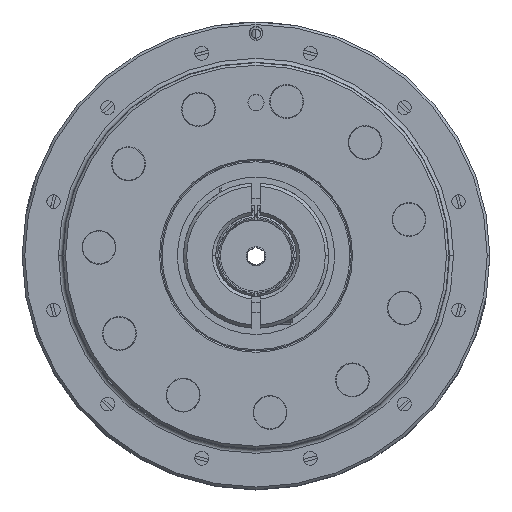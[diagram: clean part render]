
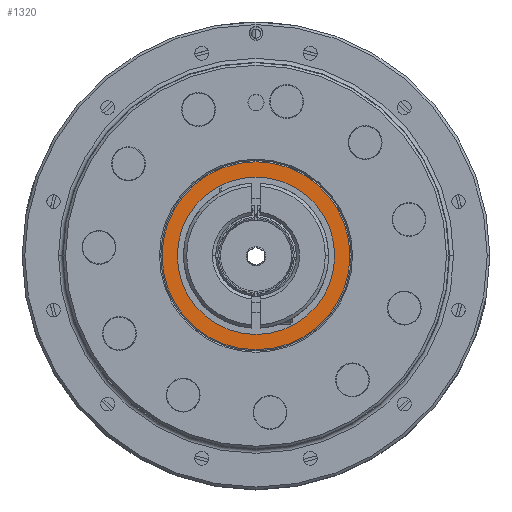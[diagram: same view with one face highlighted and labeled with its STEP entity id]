
A CAD part, top view. The second image highlights one B-rep face of the part: STEP entity #1320.
In plain terms, the highlighted planar face has unit normal (0, 0, 1).
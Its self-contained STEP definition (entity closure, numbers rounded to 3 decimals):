
#535 = CARTESIAN_POINT ( 'NONE',  ( 0., 31., -0.879 ) ) ;
#572 = AXIS2_PLACEMENT_3D ( 'NONE', #10533, #15745, #13179 ) ;
#669 = EDGE_CURVE ( 'NONE', #16812, #14153, #13506, .T. ) ;
#937 = AXIS2_PLACEMENT_3D ( 'NONE', #16549, #11621, #6335 ) ;
#1240 = EDGE_CURVE ( 'NONE', #10789, #10222, #11655, .T. ) ;
#1320 = ADVANCED_FACE ( 'NONE', ( #7412, #12664 ), #1554, .F. ) ;
#1554 = PLANE ( 'NONE',  #13356 ) ;
#2152 = CARTESIAN_POINT ( 'NONE',  ( 0., 0., -0.879 ) ) ;
#2921 = EDGE_LOOP ( 'NONE', ( #5588, #12166 ) ) ;
#3362 = DIRECTION ( 'NONE',  ( 1., 0., 0. ) ) ;
#3461 = CARTESIAN_POINT ( 'NONE',  ( 0., 0., -0.879 ) ) ;
#3538 = DIRECTION ( 'NONE',  ( 0., 0., 1. ) ) ;
#4869 = CARTESIAN_POINT ( 'NONE',  ( 31., 0., -0.879 ) ) ;
#5101 = AXIS2_PLACEMENT_3D ( 'NONE', #3461, #3538, #13970 ) ;
#5588 = ORIENTED_EDGE ( 'NONE', *, *, #669, .F. ) ;
#5765 = DIRECTION ( 'NONE',  ( -1., 0., 0. ) ) ;
#6065 = CARTESIAN_POINT ( 'NONE',  ( 37., 0., -0.879 ) ) ;
#6335 = DIRECTION ( 'NONE',  ( 1., 0., 0. ) ) ;
#6565 = AXIS2_PLACEMENT_3D ( 'NONE', #2152, #16333, #3362 ) ;
#6614 = ORIENTED_EDGE ( 'NONE', *, *, #10396, .T. ) ;
#6784 = EDGE_CURVE ( 'NONE', #14153, #16812, #10918, .T. ) ;
#7106 = EDGE_LOOP ( 'NONE', ( #6614, #13713 ) ) ;
#7412 = FACE_OUTER_BOUND ( 'NONE', #7106, .T. ) ;
#9569 = DIRECTION ( 'NONE',  ( 0., 0., -1. ) ) ;
#10222 = VERTEX_POINT ( 'NONE', #15319 ) ;
#10396 = EDGE_CURVE ( 'NONE', #10222, #10789, #14511, .T. ) ;
#10533 = CARTESIAN_POINT ( 'NONE',  ( 0., 0., -0.879 ) ) ;
#10789 = VERTEX_POINT ( 'NONE', #6065 ) ;
#10918 = CIRCLE ( 'NONE', #6565, 31. ) ;
#11621 = DIRECTION ( 'NONE',  ( 0., 0., 1. ) ) ;
#11655 = CIRCLE ( 'NONE', #5101, 37. ) ;
#11947 = CARTESIAN_POINT ( 'NONE',  ( -31., 0., -0.879 ) ) ;
#12166 = ORIENTED_EDGE ( 'NONE', *, *, #6784, .F. ) ;
#12664 = FACE_BOUND ( 'NONE', #2921, .T. ) ;
#13179 = DIRECTION ( 'NONE',  ( -1., 0., 0. ) ) ;
#13356 = AXIS2_PLACEMENT_3D ( 'NONE', #535, #9569, #5765 ) ;
#13506 = CIRCLE ( 'NONE', #937, 31. ) ;
#13713 = ORIENTED_EDGE ( 'NONE', *, *, #1240, .T. ) ;
#13970 = DIRECTION ( 'NONE',  ( -1., 0., 0. ) ) ;
#14153 = VERTEX_POINT ( 'NONE', #11947 ) ;
#14511 = CIRCLE ( 'NONE', #572, 37. ) ;
#15319 = CARTESIAN_POINT ( 'NONE',  ( -37., 0., -0.879 ) ) ;
#15745 = DIRECTION ( 'NONE',  ( 0., 0., 1. ) ) ;
#16333 = DIRECTION ( 'NONE',  ( 0., 0., 1. ) ) ;
#16549 = CARTESIAN_POINT ( 'NONE',  ( 0., 0., -0.879 ) ) ;
#16812 = VERTEX_POINT ( 'NONE', #4869 ) ;
